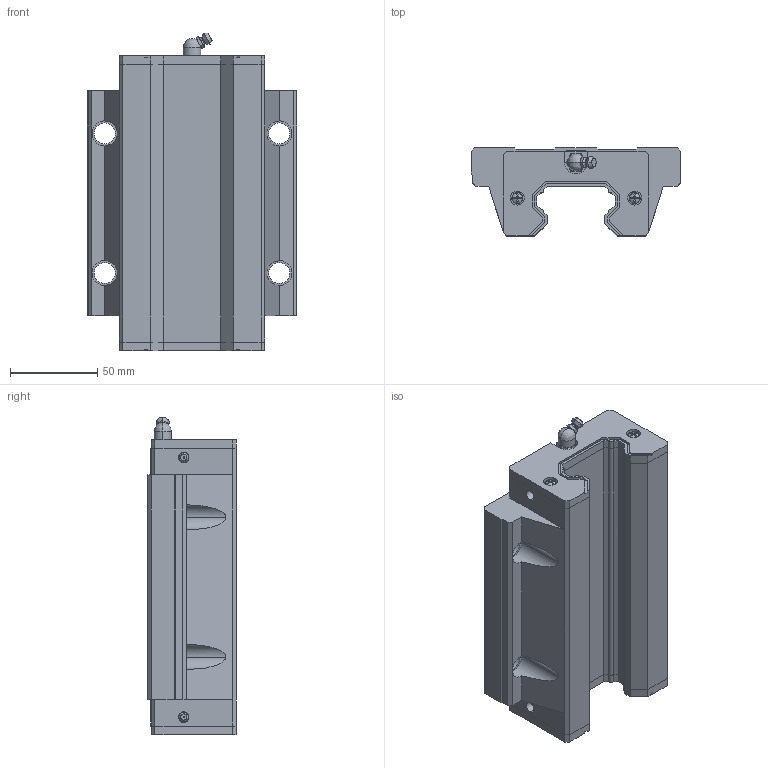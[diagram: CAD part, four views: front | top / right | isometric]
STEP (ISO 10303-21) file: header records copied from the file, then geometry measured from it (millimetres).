
FILE_DESCRIPTION (( 'STEP AP203' ), '1' );
FILE_NAME ('HGW45HC.STEP', '2021-10-25T04:45:52', ( '微软用户' ), ( '微软中国' ), 'SwSTEP 2.0', 'SolidWorks 2018', '' );
FILE_SCHEMA (( 'CONFIG_CONTROL_DESIGN' ));
Length unit declared in the file: millimetre
Products named in the file (1): HGW45HC
Bounding box: 120 x 50.5 x 182.1 mm (x, y, z)
Volume: 624411.5 mm3; surface area: 86877.2 mm2
Topology: 3 solids, 3 shells, 381 faces, 1002 edges, 651 vertices
Faces by surface type: plane 256, cylinder 76, bspline 26, cone 23
Entity records: 12575 total; most frequent: CARTESIAN_POINT 3218, ORIENTED_EDGE 1996, DIRECTION 1823, EDGE_CURVE 998, VECTOR 681, LINE 681, VERTEX_POINT 651, AXIS2_PLACEMENT_3D 571
